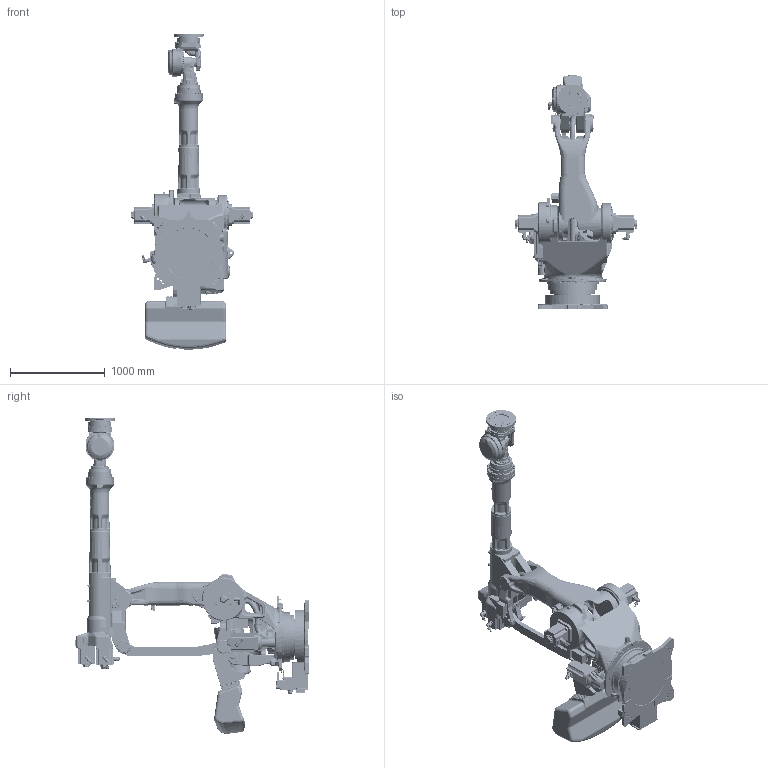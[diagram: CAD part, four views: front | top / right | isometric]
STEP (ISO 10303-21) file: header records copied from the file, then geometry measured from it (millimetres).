
FILE_DESCRIPTION (( 'STEP AP214' ), '1' );
FILE_NAME ('GP400.STEP', '2021-08-24T07:29:00', ( '' ), ( '' ), 'SwSTEP 2.0', 'SolidWorks 2019', '' );
FILE_SCHEMA (( 'AUTOMOTIVE_DESIGN' ));
Length unit declared in the file: millimetre
Products named in the file (12): GP400_T_AXIS^GP400_Standard; GP400_R_AXIS^GP400_Standard; GP400_BASE_AXIS^GP400_Standard; GP400_LINK_B_AXIS^GP400_Standard; GP400_BALANCER_2_AXIS^GP400_Standard; GP400_B_AXIS^GP400_Standard; GP400_S_AXIS^GP400_Standard; GP400_U_AXIS^GP400_Standard; GP400_LINK_A_AXIS^GP400_Standard; GP400; GP400_L_AXIS^GP400_Standard; GP400_BALANCER_1_AXIS^GP400_Standard
Assembly tree (11 placements, depth 2):
  GP400
    GP400_BASE_AXIS^GP400_Standard
    GP400_S_AXIS^GP400_Standard
    GP400_L_AXIS^GP400_Standard
    GP400_U_AXIS^GP400_Standard
    GP400_R_AXIS^GP400_Standard
    GP400_B_AXIS^GP400_Standard
    GP400_T_AXIS^GP400_Standard
    GP400_LINK_B_AXIS^GP400_Standard
    GP400_LINK_A_AXIS^GP400_Standard
    GP400_BALANCER_1_AXIS^GP400_Standard
    GP400_BALANCER_2_AXIS^GP400_Standard
Bounding box: 1287 x 2460 x 3322.38 mm (x, y, z)
Volume: 597696378.6 mm3; surface area: 17078617.4 mm2
Topology: 11 solids, 12 shells, 12606 faces, 31311 edges, 19089 vertices
Faces by surface type: cylinder 4757, bspline 3360, plane 3206, cone 875, torus 328, sphere 80
Entity records: 778086 total; most frequent: CARTESIAN_POINT 409180, ORIENTED_EDGE 61726, DIRECTION 44845, EDGE_CURVE 30863, VERTEX_POINT 18989, AXIS2_PLACEMENT_3D 17469, EDGE_LOOP 13412, FACE_OUTER_BOUND 12605
